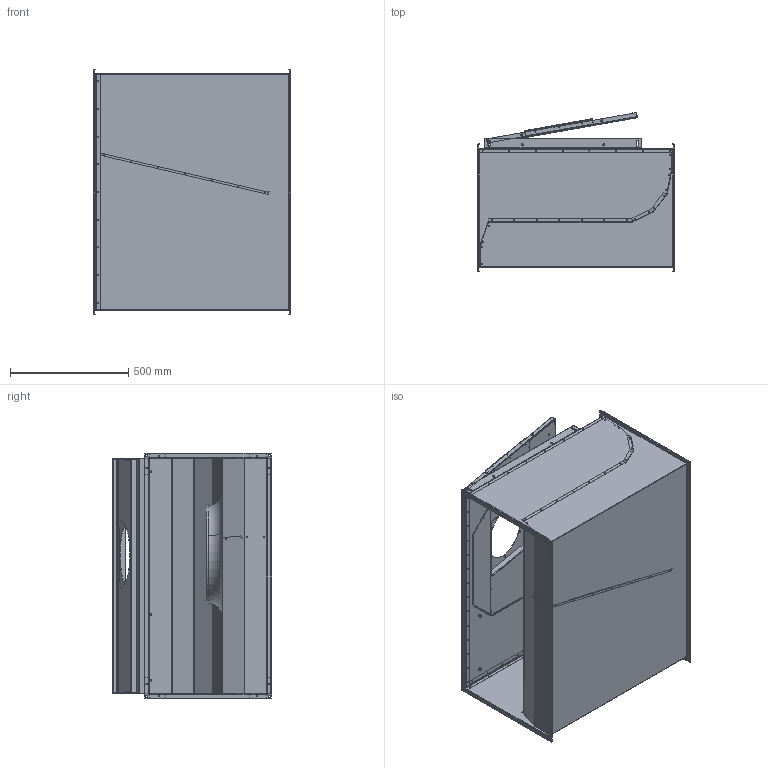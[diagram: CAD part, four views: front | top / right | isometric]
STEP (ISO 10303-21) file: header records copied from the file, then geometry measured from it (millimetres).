
FILE_DESCRIPTION (( 'STEP AP203' ), '1' );
FILE_NAME ('131373 - KVR10050EC-30 - Ruck_00095003.STEP', '2015-05-11T09:35:34', ( '' ), ( '' ), 'SwSTEP 2.0', 'SolidWorks 2012', '' );
FILE_SCHEMA (( 'CONFIG_CONTROL_DESIGN' ));
Length unit declared in the file: millimetre
Products named in the file (1): 131373 - KVR10050EC-30 - Ruck_00095003
Bounding box: 830 x 672.09 x 1038.4 mm (x, y, z)
Surface area: 9283852.8 mm2 (no closed solid volume)
Topology: 0 solids, 56 shells, 832 faces, 3357 edges, 2521 vertices
Faces by surface type: cylinder 522, plane 286, torus 10, bspline 8, cone 6
Entity records: 37646 total; most frequent: CARTESIAN_POINT 7950, DIRECTION 6619, ORIENTED_EDGE 4979, EDGE_CURVE 3357, AXIS2_PLACEMENT_3D 2530, VERTEX_POINT 2521, CIRCLE 1705, VECTOR 1559
